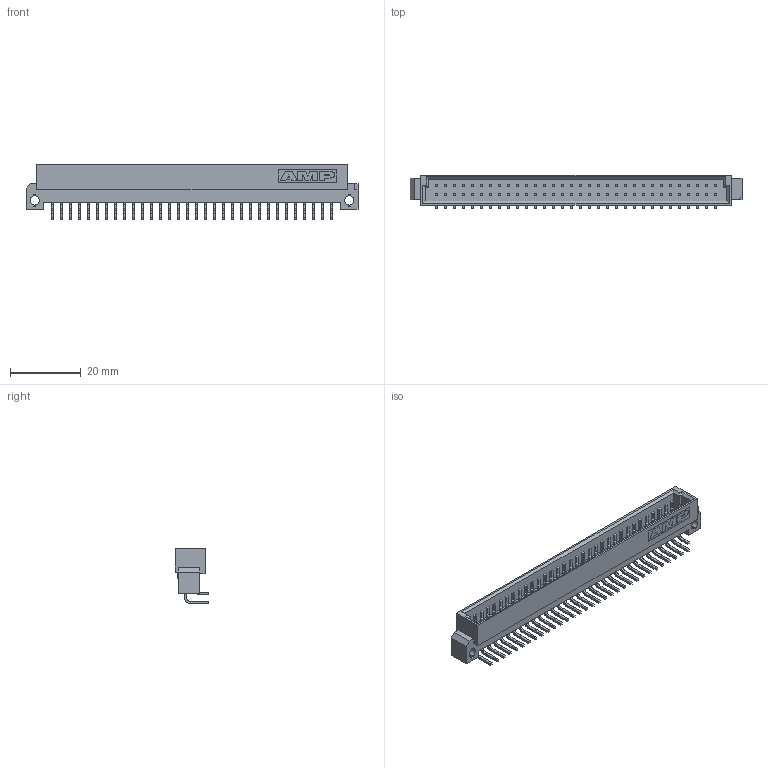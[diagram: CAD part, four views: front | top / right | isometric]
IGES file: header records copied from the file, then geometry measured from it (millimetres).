
Start section:  PTC IGES file: c-536052-5-m-3d.igs
Global section: file name: c-536052-5-m-3d.igs; native system: Pro/ENGINEER by Parametric Technology Corporation; preprocessor: 2010430; author: workeradm; organization: Unknown; units: millimetre
Bounding box: 93.85 x 9.56 x 15.51 mm (x, y, z)
Surface area: 7002.2 mm2 (no closed solid volume)
Topology: 0 solids, 0 shells, 1254 faces, 6620 edges, 6620 vertices
Faces by surface type: bspline 1119, revolution 133, extrusion 2
